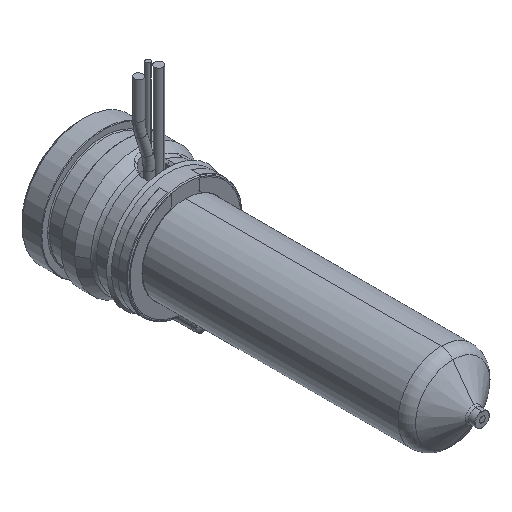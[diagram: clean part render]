
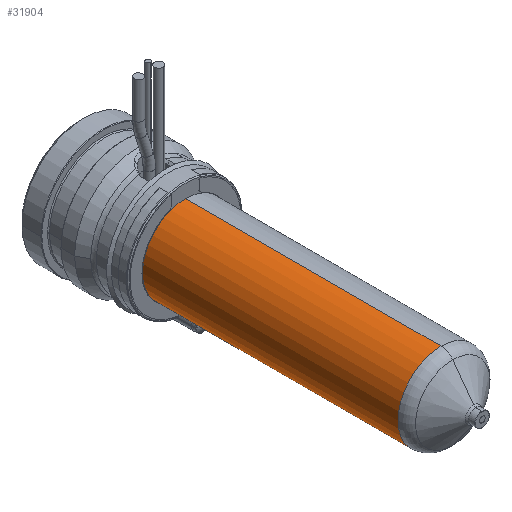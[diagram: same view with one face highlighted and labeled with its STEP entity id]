
A CAD part, isometric view. The second image highlights one B-rep face of the part: STEP entity #31904.
In plain terms, the highlighted cylindrical face has radius 9 mm (diameter 18 mm), a partial arc.
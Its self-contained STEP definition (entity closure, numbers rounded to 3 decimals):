
#31462=CARTESIAN_POINT('',(0.,-75.471,0.));
#31463=DIRECTION('',(0.,-1.,0.));
#31464=DIRECTION('',(0.,0.,1.));
#31465=AXIS2_PLACEMENT_3D('',#31462,#31463,#31464);
#31494=DIRECTION('',(0.,-1.,0.));
#31495=VECTOR('',#31494,53.471);
#31496=CARTESIAN_POINT('',(0.,-22.,9.));
#31497=LINE('',#31496,#31495);
#31509=DIRECTION('',(0.,-1.,0.));
#31510=VECTOR('',#31509,53.471);
#31511=CARTESIAN_POINT('',(0.,-22.,-9.));
#31512=LINE('',#31511,#31510);
#31516=CARTESIAN_POINT('',(0.,-22.,0.));
#31517=DIRECTION('',(0.,-1.,0.));
#31518=DIRECTION('',(0.,0.,1.));
#31519=AXIS2_PLACEMENT_3D('',#31516,#31517,#31518);
#31720=CARTESIAN_POINT('',(0.,-22.,9.));
#31721=CARTESIAN_POINT('',(0.,-75.471,9.));
#31722=VERTEX_POINT('',#31720);
#31723=VERTEX_POINT('',#31721);
#31732=CARTESIAN_POINT('',(0.,-22.,-9.));
#31733=CARTESIAN_POINT('',(0.,-75.471,-9.));
#31734=VERTEX_POINT('',#31732);
#31735=VERTEX_POINT('',#31733);
#31892=CARTESIAN_POINT('',(0.,-14.7,0.));
#31893=DIRECTION('',(0.,-1.,0.));
#31894=DIRECTION('',(0.,0.,1.));
#31895=AXIS2_PLACEMENT_3D('',#31892,#31893,#31894);
#31896=CYLINDRICAL_SURFACE('',#31895,9.);
#31897=ORIENTED_EDGE('',*,*,#31882,.T.);
#31898=ORIENTED_EDGE('',*,*,#31859,.T.);
#31899=ORIENTED_EDGE('',*,*,#31886,.F.);
#31901=ORIENTED_EDGE('',*,*,#31900,.F.);
#31902=EDGE_LOOP('',(#31897,#31898,#31899,#31901));
#31903=FACE_OUTER_BOUND('',#31902,.F.);
#31904=ADVANCED_FACE('',(#31903),#31896,.T.);
#31466=CIRCLE('',#31465,9.);
#31520=CIRCLE('',#31519,9.);
#31859=EDGE_CURVE('',#31723,#31735,#31466,.T.);
#31882=EDGE_CURVE('',#31722,#31723,#31497,.T.);
#31886=EDGE_CURVE('',#31734,#31735,#31512,.T.);
#31900=EDGE_CURVE('',#31722,#31734,#31520,.T.);
